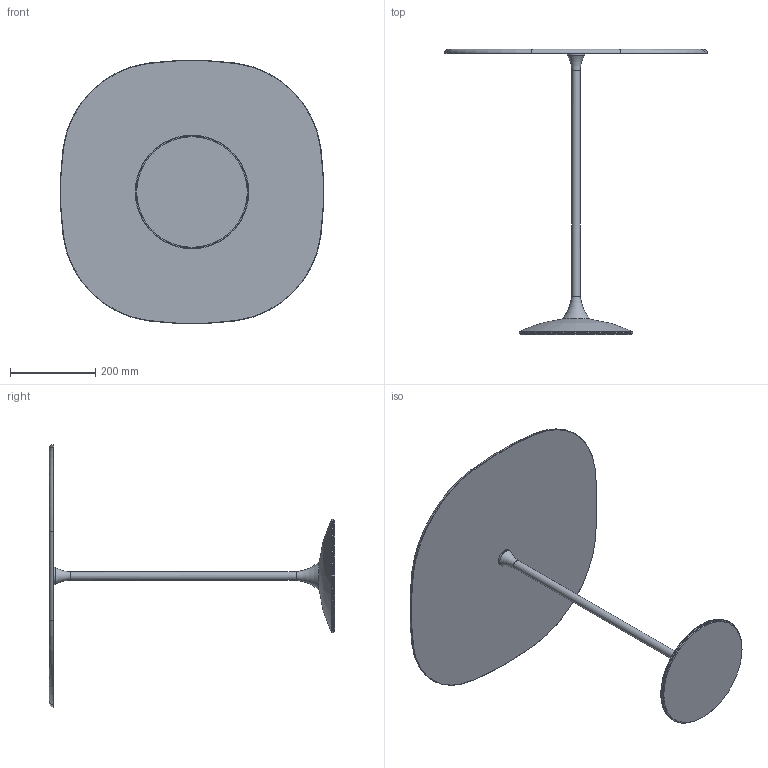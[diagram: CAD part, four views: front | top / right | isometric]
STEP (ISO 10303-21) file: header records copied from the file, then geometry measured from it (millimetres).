
FILE_DESCRIPTION((''),'2;1');
FILE_NAME('C:\AutodeskVault\AreaLavoro\Progetti\SoVeT Italia\2. Tavolini_Coffee tables\Tulip\Web file\Tulip Web\P4622.stp','2012-06-14T17:29:02',('Gianluca'),('So.Ve.T. s.r.l.'),'Autodesk Inventor 2013','Autodesk Inventor 2013','IL PROGETTO E'' DI ESCLUSIVA PROPRIETA'' DELLA SO.VE.T. srl. E'' VIETATA OGNI RIPRODUZIONE TOTALE O PARZIALE E QUALSIASI UTILIZZO NON AUTORIZZATO. ');
FILE_SCHEMA(('AUTOMOTIVE_DESIGN { 1 0 10303 214 1 1 1 1 }'));
Length unit declared in the file: millimetre
Products named in the file (1): P4622 LCTR Contorno semplificato
Bounding box: 618.44 x 670.45 x 618.44 mm (x, y, z)
Volume: 4764062.8 mm3; surface area: 828034.6 mm2
Topology: 1 solids, 1 shells, 40 faces, 85 edges, 50 vertices
Faces by surface type: torus 14, cone 14, plane 6, cylinder 5, bspline 1
Full cylindrical faces by diameter (mm): 20 x1, 40 x1, 60 x1, 260 x1, 267 x1
Entity records: 1066 total; most frequent: DIRECTION 196, CARTESIAN_POINT 174, ORIENTED_EDGE 124, AXIS2_PLACEMENT_3D 94, EDGE_CURVE 62, EDGE_LOOP 62, CIRCLE 54, VERTEX_POINT 45
